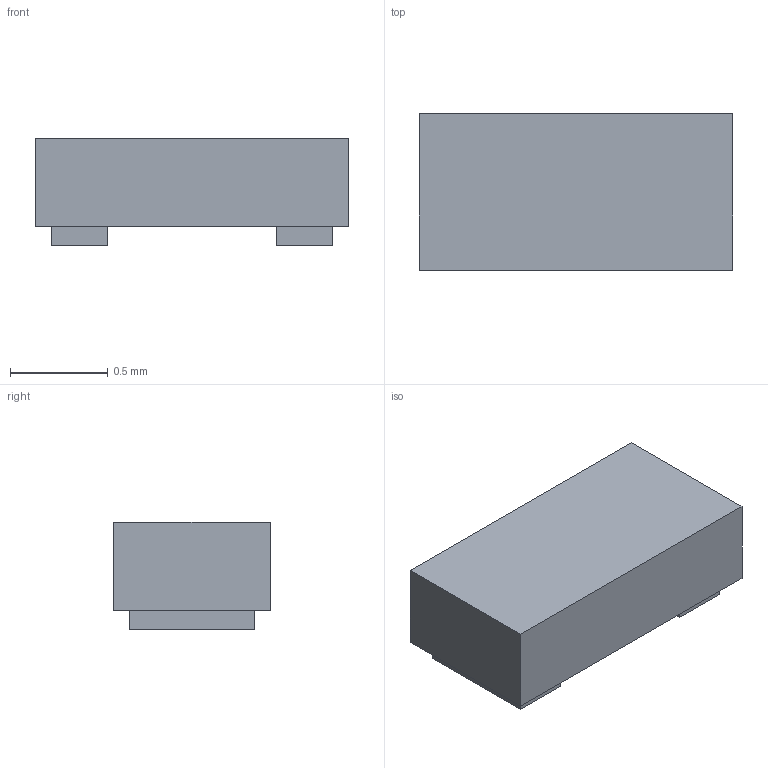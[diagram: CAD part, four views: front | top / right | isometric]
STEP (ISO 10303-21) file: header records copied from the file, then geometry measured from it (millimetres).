
FILE_DESCRIPTION(('FreeCAD Model'),'2;1');
FILE_NAME('/var/www/3D/0T/2338284.1.2.stp','2019-07-25T14:17:09',( 'Author'),(''),'Open CASCADE STEP processor 6.9','FreeCAD','Unknown' );
FILE_SCHEMA(('AUTOMOTIVE_DESIGN { 1 0 10303 214 1 1 1 1 }'));
Length unit declared in the file: millimetre
Products named in the file (4): ASSEMBLY; Body; ('pin',_'1'); ('pin',_'2')
Assembly tree (3 placements, depth 2):
  ASSEMBLY
    Body
    ('pin',_'1')
    ('pin',_'2')
Bounding box: 1.6 x 0.8 x 0.55 mm (x, y, z)
Volume: 0.6 mm3; surface area: 5.8 mm2
Topology: 3 solids, 3 shells, 18 faces, 36 edges, 24 vertices
Faces by surface type: plane 18
Entity records: 1020 total; most frequent: CARTESIAN_POINT 154, DIRECTION 152, LINE 108, VECTOR 108, ORIENTED_EDGE 72, PCURVE 72, DEFINITIONAL_REPRESENTATION 72, EDGE_CURVE 36
